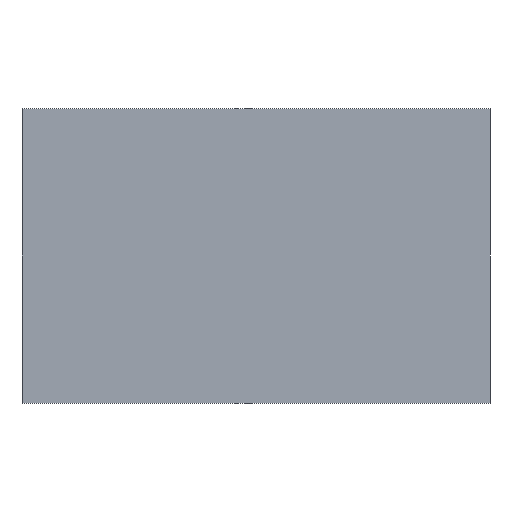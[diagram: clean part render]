
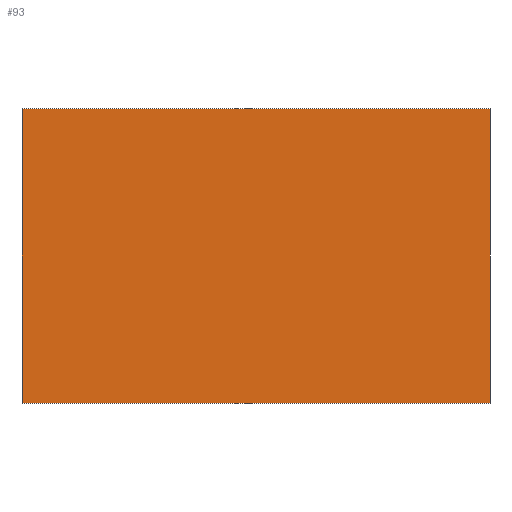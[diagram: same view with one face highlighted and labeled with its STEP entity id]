
A CAD part, front view. The second image highlights one B-rep face of the part: STEP entity #93.
In plain terms, the highlighted planar face has unit normal (0, -1, 0).
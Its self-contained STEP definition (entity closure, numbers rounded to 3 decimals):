
#4 = DIRECTION ( 'NONE',  ( 0., 1., 0. ) ) ;
#17 = FACE_OUTER_BOUND ( 'NONE', #111, .T. ) ;
#30 = AXIS2_PLACEMENT_3D ( 'NONE', #175, #4, #89 ) ;
#31 = LINE ( 'NONE', #133, #124 ) ;
#37 = DIRECTION ( 'NONE',  ( 0., 0., -1. ) ) ;
#39 = DIRECTION ( 'NONE',  ( 0., 0., 1. ) ) ;
#52 = LINE ( 'NONE', #55, #183 ) ;
#53 = CARTESIAN_POINT ( 'NONE',  ( 0., 0., -82. ) ) ;
#55 = CARTESIAN_POINT ( 'NONE',  ( 130.5, 0., -82. ) ) ;
#57 = CARTESIAN_POINT ( 'NONE',  ( 0., 0., -82. ) ) ;
#59 = ORIENTED_EDGE ( 'NONE', *, *, #157, .F. ) ;
#63 = VERTEX_POINT ( 'NONE', #116 ) ;
#67 = EDGE_CURVE ( 'NONE', #109, #153, #180, .T. ) ;
#69 = PLANE ( 'NONE',  #30 ) ;
#88 = ORIENTED_EDGE ( 'NONE', *, *, #67, .F. ) ;
#89 = DIRECTION ( 'NONE',  ( 0., 0., 1. ) ) ;
#93 = ADVANCED_FACE ( 'NONE', ( #17 ), #69, .F. ) ;
#97 = LINE ( 'NONE', #57, #117 ) ;
#109 = VERTEX_POINT ( 'NONE', #53 ) ;
#111 = EDGE_LOOP ( 'NONE', ( #174, #160, #88, #59 ) ) ;
#116 = CARTESIAN_POINT ( 'NONE',  ( 130.5, 0., 0. ) ) ;
#117 = VECTOR ( 'NONE', #192, 1000. ) ;
#124 = VECTOR ( 'NONE', #149, 1000. ) ;
#133 = CARTESIAN_POINT ( 'NONE',  ( 0., 0., 0. ) ) ;
#134 = EDGE_CURVE ( 'NONE', #63, #167, #52, .T. ) ;
#138 = VECTOR ( 'NONE', #39, 1000. ) ;
#148 = CARTESIAN_POINT ( 'NONE',  ( 130.5, 0., -82. ) ) ;
#149 = DIRECTION ( 'NONE',  ( 1., 0., 0. ) ) ;
#153 = VERTEX_POINT ( 'NONE', #181 ) ;
#157 = EDGE_CURVE ( 'NONE', #167, #109, #97, .T. ) ;
#159 = CARTESIAN_POINT ( 'NONE',  ( 0., 0., -82. ) ) ;
#160 = ORIENTED_EDGE ( 'NONE', *, *, #188, .F. ) ;
#167 = VERTEX_POINT ( 'NONE', #148 ) ;
#174 = ORIENTED_EDGE ( 'NONE', *, *, #134, .F. ) ;
#175 = CARTESIAN_POINT ( 'NONE',  ( 0., 0., 0. ) ) ;
#180 = LINE ( 'NONE', #159, #138 ) ;
#181 = CARTESIAN_POINT ( 'NONE',  ( 0., 0., 0. ) ) ;
#183 = VECTOR ( 'NONE', #37, 1000. ) ;
#188 = EDGE_CURVE ( 'NONE', #153, #63, #31, .T. ) ;
#192 = DIRECTION ( 'NONE',  ( -1., 0., 0. ) ) ;
